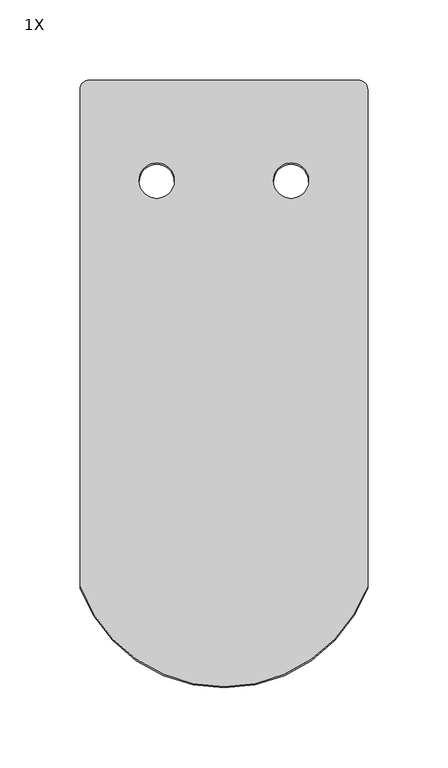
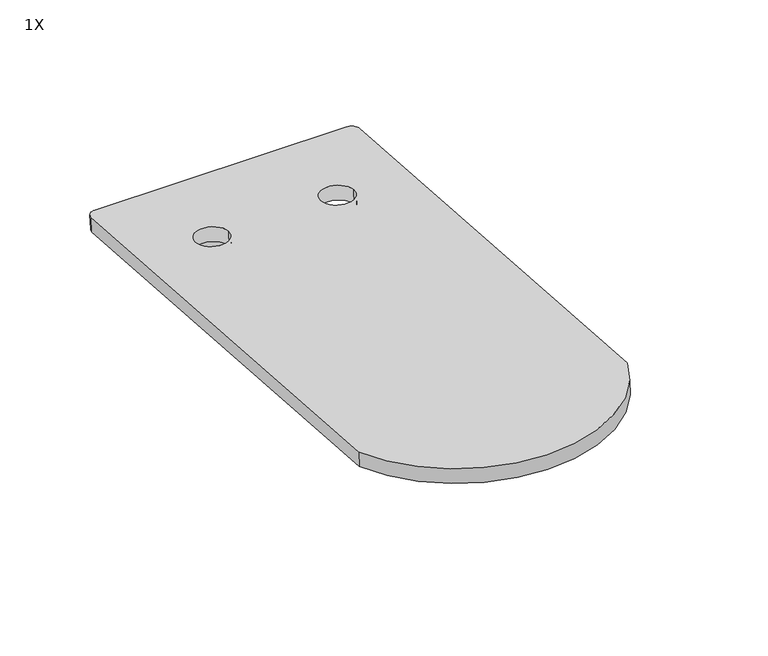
"""IFC4 building model written with IfcOpenShell, lengths in millimetres: proxy geometry, ML PhotonRoof Beaver Anthracite Premium : 1X."""

from ifc_helpers import new_model, si_unit, point, frame, frame_2d, origin, place, context, project, spatial, polyline, circle_curve, trimmed, segment, composite_curve, outline, extrude, source, transform, mapped, element, save


def proxy_1x_6a27df64(model_context):
    return source(origin(), model_context, "Body", "SweptSolid", [
        extrude(outline(composite_curve([segment(trimmed(circle_curve(frame_2d((311.4065862, -6.0)), 6.0), [point((311.4065862, 0.0))], [point((317.4065861, -6.0))], False, "CARTESIAN"), True, "CONTINUOUS"), segment(polyline([(317.4065861, -6.0), (317.4065861, -174.0)]), True, "CONTINUOUS"), segment(trimmed(circle_curve(frame_2d((311.4065862, -174.0)), 6.0), [point((317.4065861, -174.0))], [point((311.4065862, -180.0))], False, "CARTESIAN"), True, "CONTINUOUS"), segment(polyline([(311.4065862, -180.0), (0.0, -180.0)]), True, "CONTINUOUS"), segment(trimmed(circle_curve(frame_2d((33.4065862, -90.0)), 96.0), [point((0.0, -180.0))], [point((0.0, 0.0))], False, "CARTESIAN"), True, "CONTINUOUS"), segment(polyline([(0.0, 0.0), (311.4065862, 0.0)]), True, "CONTINUOUS")], self_intersect=False), holes=[composite_curve([segment(trimmed(circle_curve(frame_2d((254.4065861, -48.0)), 11.0), [point((254.4065861, -37.0))], [point((254.4065861, -59.0))], True, "CARTESIAN"), True, "CONTINUOUS"), segment(trimmed(circle_curve(frame_2d((254.4065861, -48.0)), 11.0), [point((254.4065861, -59.0))], [point((254.4065861, -37.0))], True, "CARTESIAN"), True, "CONTINUOUS")], self_intersect=False), composite_curve([segment(trimmed(circle_curve(frame_2d((254.4065861, -132.0)), 11.0), [point((254.4065861, -143.0))], [point((254.4065861, -121.0))], True, "CARTESIAN"), True, "CONTINUOUS"), segment(trimmed(circle_curve(frame_2d((254.4065861, -132.0)), 11.0), [point((254.4065861, -121.0))], [point((254.4065861, -143.0))], True, "CARTESIAN"), True, "CONTINUOUS")], self_intersect=False)]), frame((-90.0, -253.944877, 18.0218945), z_axis=(0.0, 0.0707897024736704, 0.997491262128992), x_axis=(0.0, 0.997491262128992, -0.0707897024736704)), (0.0, 0.0, 1.0), 10.0),
        extrude(outline(polyline([(65.625, 0.0), (65.625, -23.75), (-13.759513, -23.75), (-13.759513, 0.0), (65.625, 0.0)])), frame((-25.9327435, 45.7146537, -17.0859147), z_axis=(0.0, 0.0707897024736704, 0.997491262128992), x_axis=(1.0, 0.0, 0.0)), (0.0, 0.0, 1.0), 13.8069239),
    ])


if __name__ == "__main__":
    model = new_model("IFC4")
    model_context = context("Model", 3, world=origin())
    ifc_project = project(units=[si_unit("LENGTHUNIT", "METRE", prefix="MILLI")], contexts=[model_context])
    site = spatial("IfcSite", under=ifc_project)
    building = spatial("IfcBuilding", under=site)
    placement = place(None, origin())
    proxy_1x_shape = proxy_1x_6a27df64(model_context)
    element("IfcBuildingElementProxy", 1, Name="ML PhotonRoof Beaver Anthracite Premium : 1X", ObjectType="ML PhotonRoof Beaver Anthracite Premium : 1X", at=placement, inside=building, context=model_context, shape_type="MappedRepresentation", body=[
        mapped(proxy_1x_shape, transform((0.0, 0.0, 0.0), x_axis=(1.0, 0.0, 0.0), y_axis=(0.0, 1.0, 0.0), z_axis=(0.0, 0.0, 1.0))),
    ])
    save(model, "model.ifc")
